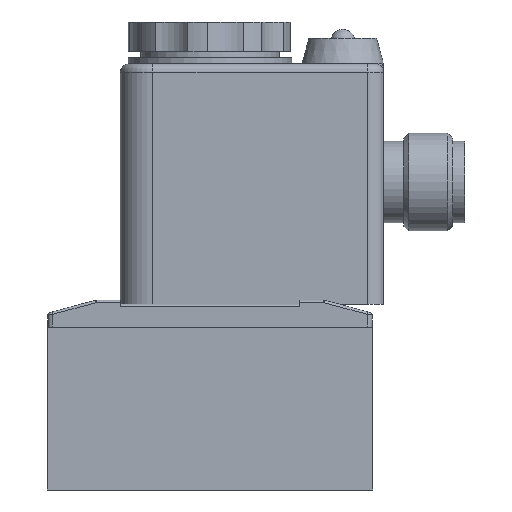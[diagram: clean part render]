
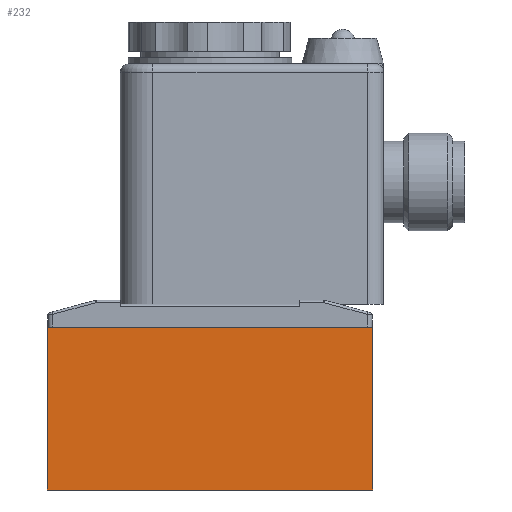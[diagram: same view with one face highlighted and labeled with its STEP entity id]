
A CAD part, front view. The second image highlights one B-rep face of the part: STEP entity #232.
In plain terms, the highlighted planar face has unit normal (0, -1, 0).
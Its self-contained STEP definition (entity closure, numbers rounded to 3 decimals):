
#232 = ADVANCED_FACE ( 'NONE', ( #5025 ), #5872, .T. ) ;
#985 = VERTEX_POINT ( 'NONE', #8541 ) ;
#986 = VERTEX_POINT ( 'NONE', #8542 ) ;
#991 = VERTEX_POINT ( 'NONE', #8547 ) ;
#992 = VERTEX_POINT ( 'NONE', #8548 ) ;
#2279 = ORIENTED_EDGE ( 'NONE', *, *, #3333, .T. ) ;
#2280 = ORIENTED_EDGE ( 'NONE', *, *, #3359, .F. ) ;
#2281 = ORIENTED_EDGE ( 'NONE', *, *, #3361, .F. ) ;
#2282 = ORIENTED_EDGE ( 'NONE', *, *, #3355, .T. ) ;
#3333 = EDGE_CURVE ( 'NONE', #986, #985, #10030, .T. ) ;
#3355 = EDGE_CURVE ( 'NONE', #991, #986, #10036, .T. ) ;
#3359 = EDGE_CURVE ( 'NONE', #992, #985, #10060, .T. ) ;
#3361 = EDGE_CURVE ( 'NONE', #991, #992, #10064, .T. ) ;
#4366 = EDGE_LOOP ( 'NONE', ( #2279, #2280, #2281, #2282 ) ) ;
#5025 = FACE_OUTER_BOUND ( 'NONE', #4366, .T. ) ;
#5871 = CARTESIAN_POINT ( 'NONE',  ( 20., -12.5, 0. ) ) ;
#5872 = PLANE ( 'NONE',  #6753 ) ;
#5878 = DIRECTION ( 'NONE',  ( 0., -1., 0. ) ) ;
#5879 = DIRECTION ( 'NONE',  ( 0.707, 0., 0.707 ) ) ;
#6753 = AXIS2_PLACEMENT_3D ( 'NONE', #5871, #5878, #5879 ) ;
#8541 = CARTESIAN_POINT ( 'NONE',  ( -20., -12.5, 20. ) ) ;
#8542 = CARTESIAN_POINT ( 'NONE',  ( 20., -12.5, 20. ) ) ;
#8547 = CARTESIAN_POINT ( 'NONE',  ( 20., -12.5, 0. ) ) ;
#8548 = CARTESIAN_POINT ( 'NONE',  ( -20., -12.5, 0. ) ) ;
#10026 = VECTOR ( 'NONE', #10961, 1000. ) ;
#10030 = LINE ( 'NONE', #10954, #10026 ) ;
#10036 = LINE ( 'NONE', #11023, #10054 ) ;
#10054 = VECTOR ( 'NONE', #11024, 1000. ) ;
#10060 = LINE ( 'NONE', #11033, #10062 ) ;
#10062 = VECTOR ( 'NONE', #11034, 1000. ) ;
#10064 = LINE ( 'NONE', #11038, #10066 ) ;
#10066 = VECTOR ( 'NONE', #11039, 1000. ) ;
#10954 = CARTESIAN_POINT ( 'NONE',  ( 20., -12.5, 20. ) ) ;
#10961 = DIRECTION ( 'NONE',  ( -1., 0., 0. ) ) ;
#11023 = CARTESIAN_POINT ( 'NONE',  ( 20., -12.5, 0. ) ) ;
#11024 = DIRECTION ( 'NONE',  ( 0., 0., 1. ) ) ;
#11033 = CARTESIAN_POINT ( 'NONE',  ( -20., -12.5, 0. ) ) ;
#11034 = DIRECTION ( 'NONE',  ( 0., 0., 1. ) ) ;
#11038 = CARTESIAN_POINT ( 'NONE',  ( 20., -12.5, 0. ) ) ;
#11039 = DIRECTION ( 'NONE',  ( -1., 0., 0. ) ) ;
